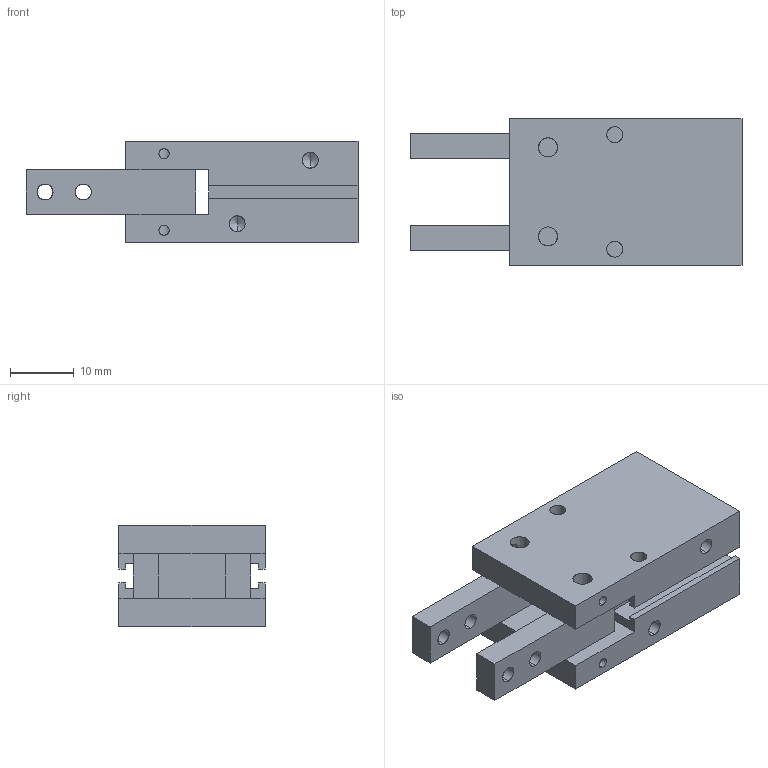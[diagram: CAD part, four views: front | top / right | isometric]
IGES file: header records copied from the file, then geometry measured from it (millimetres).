
Start section: SolidWorks IGES file using analytic representation for surfaces
Global section: file name: D:\MI\新增資料夾\Angular 2 Finger Gripper\FCHY-10.IGS; native system: SolidWorks 2013; preprocessor: SolidWorks 2013; author: Sam Lin; date: 160329.142047; units: millimetre
Bounding box: 52.2 x 23 x 16 mm (x, y, z)
Surface area: 6254.1 mm2 (no closed solid volume)
Topology: 0 solids, 0 shells, 97 faces, 1600 edges, 1588 vertices
Faces by surface type: revolution 54, bspline 43
